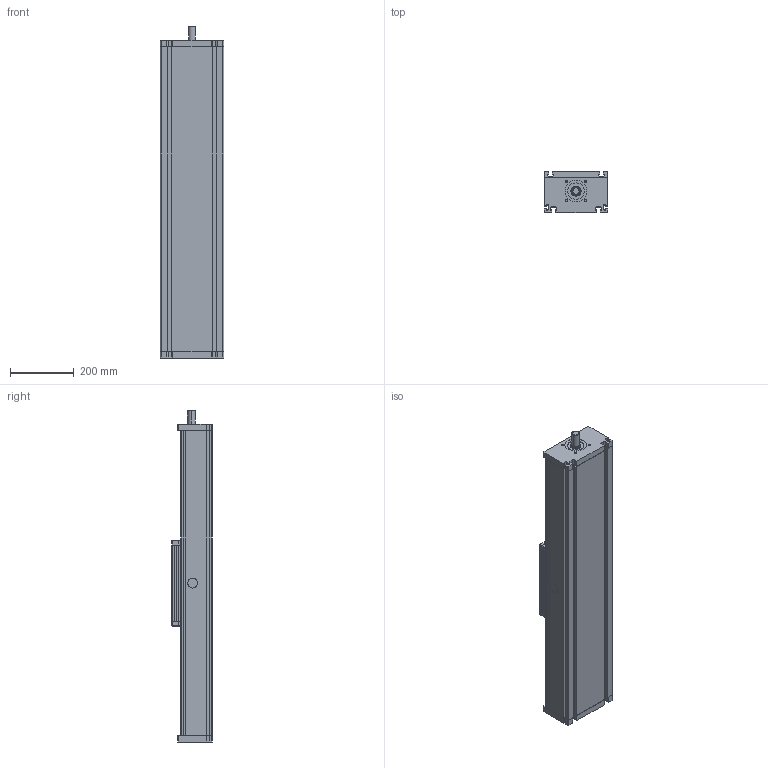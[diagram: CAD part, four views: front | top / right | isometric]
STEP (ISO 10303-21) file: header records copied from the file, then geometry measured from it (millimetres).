
FILE_DESCRIPTION (( 'STEP AP214' ), '1' );
FILE_NAME ('DLT(K)200.STEP', '2022-06-29T10:09:02', ( '' ), ( '' ), 'SwSTEP 2.0', 'SolidWorks 2020', '' );
FILE_SCHEMA (( 'AUTOMOTIVE_DESIGN' ));
Length unit declared in the file: millimetre
Products named in the file (5): bearing block^DLT(K)200_shaft; profile^DLT(K)200_standard; DLT(K)200; carriage^DLT(K)200_carriage version 0; bearing block^DLT(K)200_cap
Assembly tree (4 placements, depth 2):
  DLT(K)200
    profile^DLT(K)200_standard
    carriage^DLT(K)200_carriage version 0
    bearing block^DLT(K)200_shaft
    bearing block^DLT(K)200_cap
Bounding box: 200.2 x 129 x 1045 mm (x, y, z)
Volume: 12787909.3 mm3; surface area: 2225973.5 mm2
Topology: 13 solids, 14 shells, 401 faces, 1079 edges, 713 vertices
Faces by surface type: plane 282, cylinder 104, torus 8, cone 7
Entity records: 13770 total; most frequent: CARTESIAN_POINT 2286, ORIENTED_EDGE 2158, DIRECTION 2106, EDGE_CURVE 1079, VECTOR 848, LINE 848, VERTEX_POINT 713, AXIS2_PLACEMENT_3D 629
